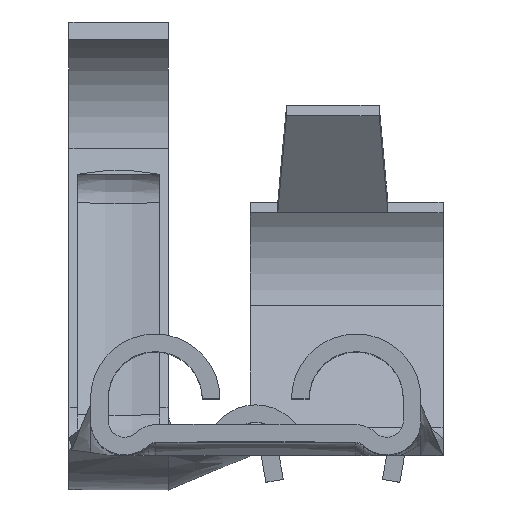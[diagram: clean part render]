
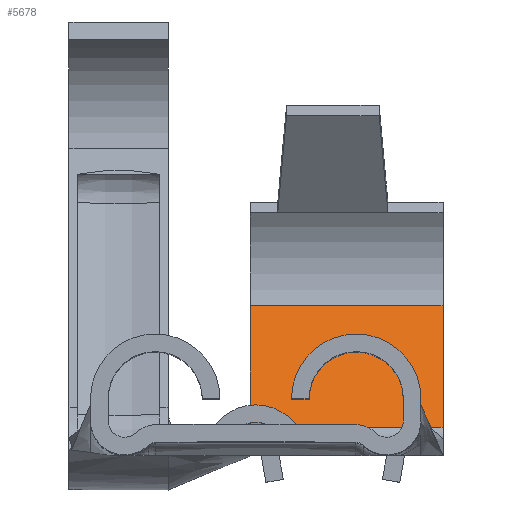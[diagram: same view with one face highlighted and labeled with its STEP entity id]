
A CAD part, top view. The second image highlights one B-rep face of the part: STEP entity #5678.
In plain terms, the highlighted planar face has unit normal (0, 0.391, 0.92).
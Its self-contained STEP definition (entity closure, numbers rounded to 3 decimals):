
#2040=DIRECTION('',(0.,0.921,-0.391));
#2041=VECTOR('',#2040,3.048);
#2042=CARTESIAN_POINT('',(4.318,0.66,-13.411));
#2043=LINE('',#2042,#2041);
#2053=DIRECTION('',(-1.,0.,0.));
#2054=VECTOR('',#2053,4.445);
#2055=CARTESIAN_POINT('',(4.318,3.466,-14.602));
#2056=LINE('',#2055,#2054);
#2057=DIRECTION('',(-1.,0.,0.));
#2058=VECTOR('',#2057,4.445);
#2059=CARTESIAN_POINT('',(4.318,0.66,-13.411));
#2060=LINE('',#2059,#2058);
#2061=DIRECTION('',(0.,0.921,-0.391));
#2062=VECTOR('',#2061,0.53);
#2063=CARTESIAN_POINT('',(-0.127,0.66,
-13.411));
#2064=LINE('',#2063,#2062);
#2074=DIRECTION('',(0.,-0.921,0.391));
#2075=VECTOR('',#2074,2.518);
#2076=CARTESIAN_POINT('',(-0.127,3.466,-14.602));
#2077=LINE('',#2076,#2075);
#2199=CARTESIAN_POINT('',(-0.127,1.149,-13.618));
#2520=CARTESIAN_POINT('',(4.318,0.66,-13.411));
#2522=VERTEX_POINT('',#2520);
#2523=CARTESIAN_POINT('',(4.318,3.466,-14.602));
#2524=VERTEX_POINT('',#2523);
#2531=CARTESIAN_POINT('',(-0.127,3.466,-14.602));
#2532=VERTEX_POINT('',#2531);
#2541=CARTESIAN_POINT('',(-0.127,0.66,
-13.411));
#2542=VERTEX_POINT('',#2541);
#2559=VERTEX_POINT('',#2199);
#5663=CARTESIAN_POINT('',(4.318,0.66,-13.411));
#5664=DIRECTION('',(0.,0.391,0.921));
#5665=DIRECTION('',(0.,0.921,-0.391));
#5666=AXIS2_PLACEMENT_3D('',#5663,#5664,#5665);
#5667=PLANE('',#5666);
#5669=ORIENTED_EDGE('',*,*,#5668,.F.);
#5670=ORIENTED_EDGE('',*,*,#5652,.F.);
#5671=ORIENTED_EDGE('',*,*,#5623,.F.);
#5673=ORIENTED_EDGE('',*,*,#5672,.T.);
#5675=ORIENTED_EDGE('',*,*,#5674,.T.);
#5676=EDGE_LOOP('',(#5669,#5670,#5671,#5673,#5675));
#5677=FACE_OUTER_BOUND('',#5676,.F.);
#5678=ADVANCED_FACE('',(#5677),#5667,.T.);
#5623=EDGE_CURVE('',#2522,#2524,#2043,.T.);
#5652=EDGE_CURVE('',#2524,#2532,#2056,.T.);
#5668=EDGE_CURVE('',#2532,#2559,#2077,.T.);
#5672=EDGE_CURVE('',#2522,#2542,#2060,.T.);
#5674=EDGE_CURVE('',#2542,#2559,#2064,.T.);
